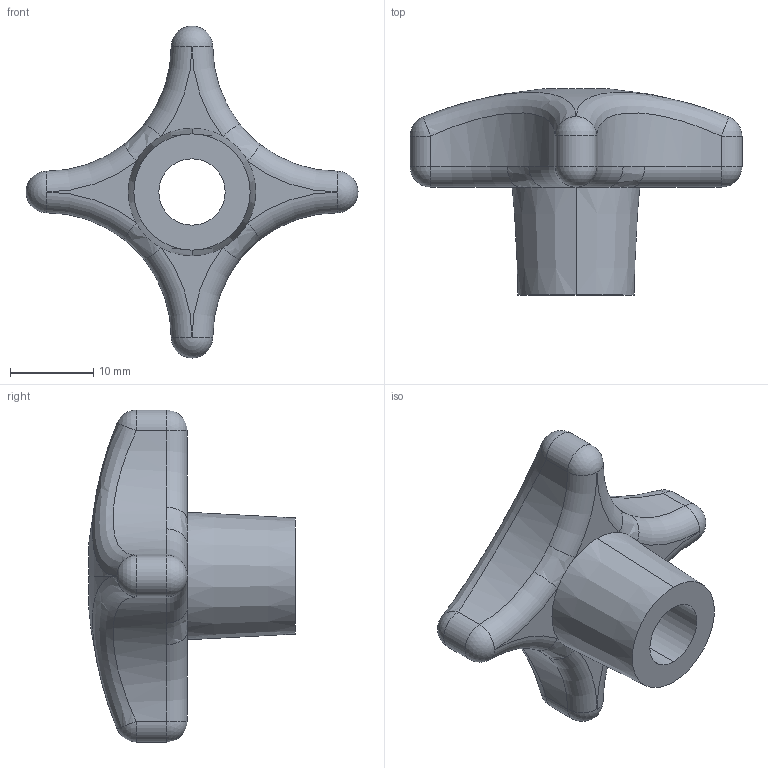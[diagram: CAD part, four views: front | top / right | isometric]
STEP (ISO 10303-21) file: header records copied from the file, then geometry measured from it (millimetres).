
FILE_DESCRIPTION (( 'STEP AP203' ), '1' );
FILE_NAME ('7000.W140.step', '2010-01-29T17:35:10', ( 'Wixroyd' ), ( 'Wixroyd' ), 'SwSTEP 2.0', 'SolidWorks 2009', '' );
FILE_SCHEMA (( 'CONFIG_CONTROL_DESIGN' ));
Length unit declared in the file: millimetre
Products named in the file (1): 7000.W140
Bounding box: 40 x 24.84 x 40 mm (x, y, z)
Volume: 6671.9 mm3; surface area: 3207.8 mm2
Topology: 1 solids, 1 shells, 44 faces, 99 edges, 52 vertices
Faces by surface type: cylinder 11, sphere 10, torus 8, bspline 8, plane 5, cone 2
Entity records: 4382 total; most frequent: CARTESIAN_POINT 3344, DIRECTION 227, ORIENTED_EDGE 190, AXIS2_PLACEMENT_3D 107, EDGE_CURVE 95, CIRCLE 70, VERTEX_POINT 52, EDGE_LOOP 45
